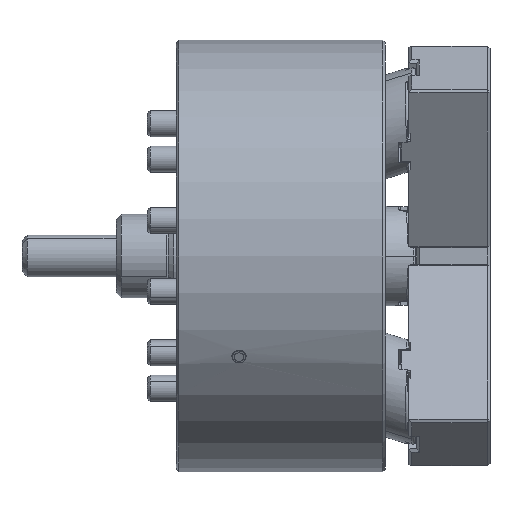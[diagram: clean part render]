
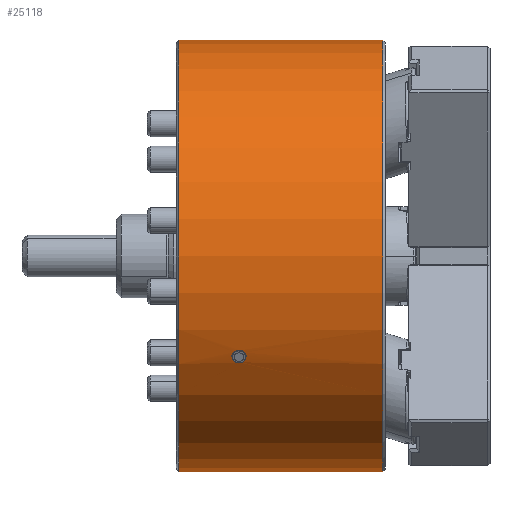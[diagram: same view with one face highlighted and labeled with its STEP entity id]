
A CAD part, front view. The second image highlights one B-rep face of the part: STEP entity #25118.
In plain terms, the highlighted cylindrical face has radius 82.5 mm (diameter 165 mm), a partial arc.
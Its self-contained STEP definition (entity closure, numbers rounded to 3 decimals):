
#730 = ORIENTED_EDGE ( 'NONE', *, *, #15990, .T. ) ;
#903 = VERTEX_POINT ( 'NONE', #24574 ) ;
#1065 = DIRECTION ( 'NONE',  ( 0., 0., -1. ) ) ;
#1554 = CARTESIAN_POINT ( 'NONE',  ( -53.35, -73.247, -37.963 ) ) ;
#1680 = CARTESIAN_POINT ( 'NONE',  ( -55.81, -74.247, -35.967 ) ) ;
#1811 = CARTESIAN_POINT ( 'NONE',  ( -58.695, -72.9, -38.625 ) ) ;
#2047 = B_SPLINE_CURVE_WITH_KNOTS ( 'NONE', 3,
 ( #10624, #35061, #19778, #1554, #22890, #4589, #25973, #7686, #29060, #10745, #32122, #13846, #35192, #16881, #38264, #19909, #1680, #23028, #4722, #26105, #7816, #29185, #10873, #32248, #13985, #35322, #17015, #38397, #20047, #1811 ),
 .UNSPECIFIED., .F., .F.,
 ( 4, 2, 2, 2, 2, 2, 2, 2, 2, 2, 2, 2, 2, 2, 4 ),
 ( 0.008, 0.009, 0.009, 0.01, 0.01, 0.011, 0.011, 0.012, 0.013, 0.013, 0.014, 0.015, 0.015, 0.016, 0.017 ),
 .UNSPECIFIED. ) ;
#2097 = CARTESIAN_POINT ( 'NONE',  ( -56.846, -71.712, -40.788 ) ) ;
#2232 = CARTESIAN_POINT ( 'NONE',  ( -53.623, -72.353, -39.639 ) ) ;
#3819 = ORIENTED_EDGE ( 'NONE', *, *, #19485, .F. ) ;
#4515 = EDGE_LOOP ( 'NONE', ( #34198, #3819 ) ) ;
#4589 = CARTESIAN_POINT ( 'NONE',  ( -53.514, -73.494, -37.483 ) ) ;
#4611 = EDGE_CURVE ( 'NONE', #19070, #8123, #19633, .T. ) ;
#4722 = CARTESIAN_POINT ( 'NONE',  ( -56.373, -74.238, -35.985 ) ) ;
#5163 = CARTESIAN_POINT ( 'NONE',  ( -56.346, -71.654, -40.89 ) ) ;
#5291 = CARTESIAN_POINT ( 'NONE',  ( -53.425, -72.582, -39.219 ) ) ;
#6931 = DIRECTION ( 'NONE',  ( 0., 0., -1. ) ) ;
#7499 = VECTOR ( 'NONE', #29966, 1000. ) ;
#7686 = CARTESIAN_POINT ( 'NONE',  ( -53.778, -73.716, -37.043 ) ) ;
#7816 = CARTESIAN_POINT ( 'NONE',  ( -56.916, -74.177, -36.11 ) ) ;
#8123 = VERTEX_POINT ( 'NONE', #17741 ) ;
#8126 = CARTESIAN_POINT ( 'NONE',  ( -58.673, -72.738, -38.93 ) ) ;
#8254 = CARTESIAN_POINT ( 'NONE',  ( -55.829, -71.645, -40.905 ) ) ;
#8349 = CARTESIAN_POINT ( 'NONE',  ( 63.843, 0., 82.5 ) ) ;
#8382 = CARTESIAN_POINT ( 'NONE',  ( -53.316, -72.819, -38.777 ) ) ;
#8525 = VERTEX_POINT ( 'NONE', #21107 ) ;
#8528 = CARTESIAN_POINT ( 'NONE',  ( -79., 0., -82.5 ) ) ;
#10624 = CARTESIAN_POINT ( 'NONE',  ( -53.305, -72.9, -38.625 ) ) ;
#10745 = CARTESIAN_POINT ( 'NONE',  ( -54.138, -73.91, -36.654 ) ) ;
#10873 = CARTESIAN_POINT ( 'NONE',  ( -57.736, -73.974, -36.527 ) ) ;
#11182 = CARTESIAN_POINT ( 'NONE',  ( -58.59, -72.58, -39.224 ) ) ;
#11314 = CARTESIAN_POINT ( 'NONE',  ( -55.32, -71.687, -40.832 ) ) ;
#12694 = DIRECTION ( 'NONE',  ( 1., 0., 0. ) ) ;
#13846 = CARTESIAN_POINT ( 'NONE',  ( -54.575, -74.065, -36.34 ) ) ;
#13890 = B_SPLINE_CURVE_WITH_KNOTS ( 'NONE', 3,
 ( #26428, #8126, #11182, #32554, #14283, #35609, #17321, #38698, #20342, #2097, #23466, #5163, #26552, #8254, #29613, #11314, #32675, #14411, #35745, #17444, #38817, #20480, #2232, #23593, #5291, #26694, #8382, #29743 ),
 .UNSPECIFIED., .F., .F.,
 ( 4, 2, 2, 2, 2, 2, 2, 2, 2, 2, 2, 2, 2, 4 ),
 ( 0.017, 0.018, 0.019, 0.02, 0.02, 0.021, 0.021, 0.022, 0.022, 0.023, 0.024, 0.024, 0.025, 0.025 ),
 .UNSPECIFIED. ) ;
#13985 = CARTESIAN_POINT ( 'NONE',  ( -58.219, -73.718, -37.04 ) ) ;
#14240 = AXIS2_PLACEMENT_3D ( 'NONE', #30971, #12694, #34058 ) ;
#14283 = CARTESIAN_POINT ( 'NONE',  ( -58.108, -72.14, -40.027 ) ) ;
#14411 = CARTESIAN_POINT ( 'NONE',  ( -54.678, -71.809, -40.617 ) ) ;
#15626 = LINE ( 'NONE', #8349, #7499 ) ;
#15990 = EDGE_CURVE ( 'NONE', #19065, #8123, #36089, .T. ) ;
#16168 = DIRECTION ( 'NONE',  ( 1., 0., 0. ) ) ;
#16881 = CARTESIAN_POINT ( 'NONE',  ( -55.078, -74.176, -36.113 ) ) ;
#17015 = CARTESIAN_POINT ( 'NONE',  ( -58.486, -73.493, -37.483 ) ) ;
#17321 = CARTESIAN_POINT ( 'NONE',  ( -57.604, -71.91, -40.438 ) ) ;
#17444 = CARTESIAN_POINT ( 'NONE',  ( -54.017, -72.08, -40.134 ) ) ;
#17741 = CARTESIAN_POINT ( 'NONE',  ( -1., 0., -82.5 ) ) ;
#18363 = DIRECTION ( 'NONE',  ( 1., 0., 0. ) ) ;
#18853 = VECTOR ( 'NONE', #18363, 1000. ) ;
#19065 = VERTEX_POINT ( 'NONE', #8528 ) ;
#19070 = VERTEX_POINT ( 'NONE', #36015 ) ;
#19136 = FACE_OUTER_BOUND ( 'NONE', #35198, .T. ) ;
#19297 = DIRECTION ( 'NONE',  ( 1., 0., 0. ) ) ;
#19485 = EDGE_CURVE ( 'NONE', #8525, #903, #2047, .T. ) ;
#19633 = CIRCLE ( 'NONE', #14240, 82.5 ) ;
#19778 = CARTESIAN_POINT ( 'NONE',  ( -53.3, -73.076, -38.291 ) ) ;
#19909 = CARTESIAN_POINT ( 'NONE',  ( -55.624, -74.238, -35.985 ) ) ;
#20047 = CARTESIAN_POINT ( 'NONE',  ( -58.718, -73.076, -38.292 ) ) ;
#20342 = CARTESIAN_POINT ( 'NONE',  ( -57.165, -71.777, -40.674 ) ) ;
#20480 = CARTESIAN_POINT ( 'NONE',  ( -53.708, -72.282, -39.77 ) ) ;
#21107 = CARTESIAN_POINT ( 'NONE',  ( -53.305, -72.9, -38.625 ) ) ;
#22890 = CARTESIAN_POINT ( 'NONE',  ( -53.392, -73.33, -37.801 ) ) ;
#23028 = CARTESIAN_POINT ( 'NONE',  ( -56.183, -74.247, -35.967 ) ) ;
#23128 = ORIENTED_EDGE ( 'NONE', *, *, #38734, .F. ) ;
#23466 = CARTESIAN_POINT ( 'NONE',  ( -56.682, -71.687, -40.831 ) ) ;
#23593 = CARTESIAN_POINT ( 'NONE',  ( -53.482, -72.503, -39.364 ) ) ;
#24574 = CARTESIAN_POINT ( 'NONE',  ( -58.695, -72.9, -38.625 ) ) ;
#25118 = ADVANCED_FACE ( 'NONE', ( #19136, #36369 ), #34477, .T. ) ;
#25973 = CARTESIAN_POINT ( 'NONE',  ( -53.591, -73.571, -37.331 ) ) ;
#26105 = CARTESIAN_POINT ( 'NONE',  ( -56.739, -74.203, -36.057 ) ) ;
#26428 = CARTESIAN_POINT ( 'NONE',  ( -58.695, -72.9, -38.625 ) ) ;
#26552 = CARTESIAN_POINT ( 'NONE',  ( -56.172, -71.645, -40.905 ) ) ;
#26694 = CARTESIAN_POINT ( 'NONE',  ( -53.342, -72.74, -38.926 ) ) ;
#28332 = CARTESIAN_POINT ( 'NONE',  ( 63.843, 0., 0. ) ) ;
#28492 = VERTEX_POINT ( 'NONE', #31612 ) ;
#29060 = CARTESIAN_POINT ( 'NONE',  ( -53.889, -73.785, -36.905 ) ) ;
#29185 = CARTESIAN_POINT ( 'NONE',  ( -57.429, -74.074, -36.321 ) ) ;
#29613 = CARTESIAN_POINT ( 'NONE',  ( -55.658, -71.654, -40.89 ) ) ;
#29682 = ORIENTED_EDGE ( 'NONE', *, *, #4611, .F. ) ;
#29743 = CARTESIAN_POINT ( 'NONE',  ( -53.305, -72.9, -38.625 ) ) ;
#29966 = DIRECTION ( 'NONE',  ( 1., 0., 0. ) ) ;
#30192 = AXIS2_PLACEMENT_3D ( 'NONE', #37667, #19297, #1065 ) ;
#30971 = CARTESIAN_POINT ( 'NONE',  ( -1., 0., 0. ) ) ;
#31612 = CARTESIAN_POINT ( 'NONE',  ( -79., 0., 82.5 ) ) ;
#32122 = CARTESIAN_POINT ( 'NONE',  ( -54.275, -73.966, -36.541 ) ) ;
#32248 = CARTESIAN_POINT ( 'NONE',  ( -58.11, -73.786, -36.904 ) ) ;
#32554 = CARTESIAN_POINT ( 'NONE',  ( -58.305, -72.277, -39.779 ) ) ;
#32675 = CARTESIAN_POINT ( 'NONE',  ( -55.153, -71.712, -40.788 ) ) ;
#33616 = CARTESIAN_POINT ( 'NONE',  ( 63.843, 0., -82.5 ) ) ;
#33872 = CIRCLE ( 'NONE', #30192, 82.5 ) ;
#34058 = DIRECTION ( 'NONE',  ( 0., 0., -1. ) ) ;
#34198 = ORIENTED_EDGE ( 'NONE', *, *, #36039, .F. ) ;
#34477 = CYLINDRICAL_SURFACE ( 'NONE', #37058, 82.5 ) ;
#35061 = CARTESIAN_POINT ( 'NONE',  ( -53.294, -72.988, -38.459 ) ) ;
#35192 = CARTESIAN_POINT ( 'NONE',  ( -54.739, -74.108, -36.253 ) ) ;
#35198 = EDGE_LOOP ( 'NONE', ( #23128, #36985, #730, #29682 ) ) ;
#35322 = CARTESIAN_POINT ( 'NONE',  ( -58.408, -73.572, -37.329 ) ) ;
#35609 = CARTESIAN_POINT ( 'NONE',  ( -57.737, -71.963, -40.344 ) ) ;
#35745 = CARTESIAN_POINT ( 'NONE',  ( -54.385, -71.905, -40.448 ) ) ;
#36015 = CARTESIAN_POINT ( 'NONE',  ( -1., 0., 82.5 ) ) ;
#36039 = EDGE_CURVE ( 'NONE', #903, #8525, #13890, .T. ) ;
#36089 = LINE ( 'NONE', #33616, #18853 ) ;
#36369 = FACE_BOUND ( 'NONE', #4515, .T. ) ;
#36985 = ORIENTED_EDGE ( 'NONE', *, *, #37348, .T. ) ;
#37058 = AXIS2_PLACEMENT_3D ( 'NONE', #28332, #16168, #6931 ) ;
#37348 = EDGE_CURVE ( 'NONE', #28492, #19065, #33872, .T. ) ;
#37667 = CARTESIAN_POINT ( 'NONE',  ( -79., 0., 0. ) ) ;
#38264 = CARTESIAN_POINT ( 'NONE',  ( -55.255, -74.203, -36.059 ) ) ;
#38397 = CARTESIAN_POINT ( 'NONE',  ( -58.667, -73.251, -37.955 ) ) ;
#38698 = CARTESIAN_POINT ( 'NONE',  ( -57.318, -71.817, -40.602 ) ) ;
#38734 = EDGE_CURVE ( 'NONE', #28492, #19070, #15626, .T. ) ;
#38817 = CARTESIAN_POINT ( 'NONE',  ( -53.904, -72.145, -40.017 ) ) ;
